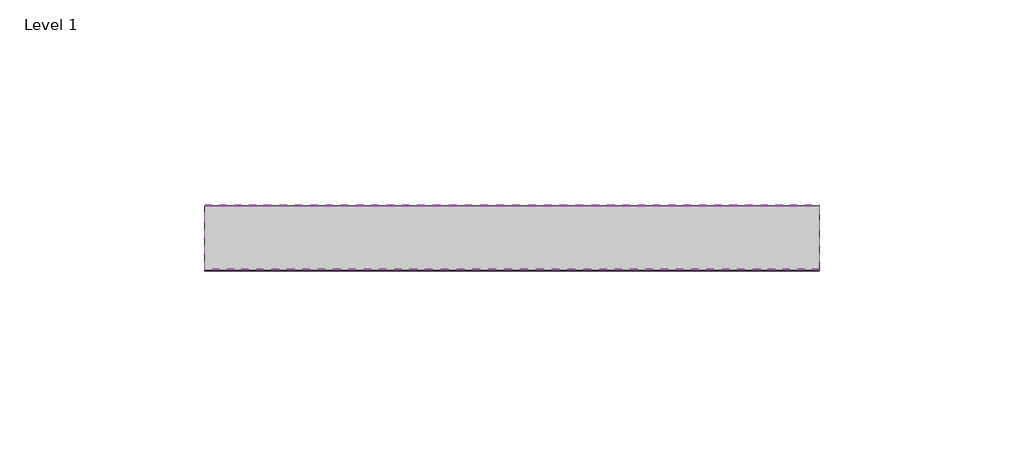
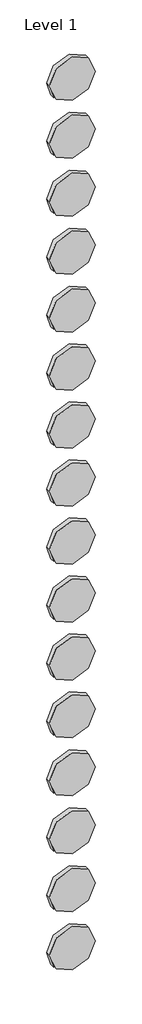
# One storey: 16 proxies.
"""IFC4 building model written with IfcOpenShell, lengths in millimetres."""

from ifc_helpers import new_model, si_unit, origin, place, context, project, spatial, transform, mapped, element, save
from components import materialmodel_materialmodel_7ac49ee1

model = new_model("IFC4")

# Units and contexts
model_context = context("Model", 3, world=origin())
ifc_project = project(units=[si_unit("LENGTHUNIT", "METRE", prefix="MILLI")], contexts=[model_context])

# Site, building, storey
site = spatial("IfcSite", under=ifc_project)
building = spatial("IfcBuilding", under=site)
storey = spatial("IfcBuildingStorey", under=building, Name="Level 1", Elevation=0.0)

# Proxies
placement = place(None, origin())
materialmodel_materialmodel_shape = materialmodel_materialmodel_7ac49ee1(model_context)
element("IfcBuildingElementProxy", 1, Name="MaterialModel : MaterialModel", ObjectType="MaterialModel : MaterialModel", at=placement, inside=storey, context=model_context, shape_type="MappedRepresentation", body=[
    mapped(materialmodel_materialmodel_shape, transform((-14563.2398028, 705.5961609, 2917.2148789), x_axis=(1.0, 0.0, 0.0), y_axis=(0.0, 1.0, 0.0), z_axis=(0.0, 0.0, 1.0))),
])
element("IfcBuildingElementProxy", 2, Name="MaterialModel : MaterialModel", ObjectType="MaterialModel : MaterialModel", at=placement, inside=storey, context=model_context, shape_type="MappedRepresentation", body=[
    mapped(materialmodel_materialmodel_shape, transform((-14563.2398028, 705.5961609, 2716.8990228), x_axis=(1.0, 0.0, 0.0), y_axis=(0.0, 1.0, 0.0), z_axis=(0.0, 0.0, 1.0))),
])
element("IfcBuildingElementProxy", 3, Name="MaterialModel : MaterialModel", ObjectType="MaterialModel : MaterialModel", at=placement, inside=storey, context=model_context, shape_type="MappedRepresentation", body=[
    mapped(materialmodel_materialmodel_shape, transform((-14563.2398028, 705.5961609, 2516.5831667), x_axis=(1.0, 0.0, 0.0), y_axis=(0.0, 1.0, 0.0), z_axis=(0.0, 0.0, 1.0))),
])
element("IfcBuildingElementProxy", 4, Name="MaterialModel : MaterialModel", ObjectType="MaterialModel : MaterialModel", at=placement, inside=storey, context=model_context, shape_type="MappedRepresentation", body=[
    mapped(materialmodel_materialmodel_shape, transform((-14563.2398028, 705.5961609, 2316.2673106), x_axis=(1.0, 0.0, 0.0), y_axis=(0.0, 1.0, 0.0), z_axis=(0.0, 0.0, 1.0))),
])
element("IfcBuildingElementProxy", 5, Name="MaterialModel : MaterialModel", ObjectType="MaterialModel : MaterialModel", at=placement, inside=storey, context=model_context, shape_type="MappedRepresentation", body=[
    mapped(materialmodel_materialmodel_shape, transform((-14563.2398028, 705.5961609, 2115.9514546), x_axis=(1.0, 0.0, 0.0), y_axis=(0.0, 1.0, 0.0), z_axis=(0.0, 0.0, 1.0))),
])
element("IfcBuildingElementProxy", 6, Name="MaterialModel : MaterialModel", ObjectType="MaterialModel : MaterialModel", at=placement, inside=storey, context=model_context, shape_type="MappedRepresentation", body=[
    mapped(materialmodel_materialmodel_shape, transform((-14563.2398028, 705.5961609, 1915.6355985), x_axis=(1.0, 0.0, 0.0), y_axis=(0.0, 1.0, 0.0), z_axis=(0.0, 0.0, 1.0))),
])
element("IfcBuildingElementProxy", 7, Name="MaterialModel : MaterialModel", ObjectType="MaterialModel : MaterialModel", at=placement, inside=storey, context=model_context, shape_type="MappedRepresentation", body=[
    mapped(materialmodel_materialmodel_shape, transform((-14563.2398028, 705.5961609, 1715.3197424), x_axis=(1.0, 0.0, 0.0), y_axis=(0.0, 1.0, 0.0), z_axis=(0.0, 0.0, 1.0))),
])
element("IfcBuildingElementProxy", 8, Name="MaterialModel : MaterialModel", ObjectType="MaterialModel : MaterialModel", at=placement, inside=storey, context=model_context, shape_type="MappedRepresentation", body=[
    mapped(materialmodel_materialmodel_shape, transform((-14563.2398028, 705.5961609, 1515.0038863), x_axis=(1.0, 0.0, 0.0), y_axis=(0.0, 1.0, 0.0), z_axis=(0.0, 0.0, 1.0))),
])
element("IfcBuildingElementProxy", 9, Name="MaterialModel : MaterialModel", ObjectType="MaterialModel : MaterialModel", at=placement, inside=storey, context=model_context, shape_type="MappedRepresentation", body=[
    mapped(materialmodel_materialmodel_shape, transform((-14563.2398028, 705.5961609, 1314.6880302), x_axis=(1.0, 0.0, 0.0), y_axis=(0.0, 1.0, 0.0), z_axis=(0.0, 0.0, 1.0))),
])
element("IfcBuildingElementProxy", 10, Name="MaterialModel : MaterialModel", ObjectType="MaterialModel : MaterialModel", at=placement, inside=storey, context=model_context, shape_type="MappedRepresentation", body=[
    mapped(materialmodel_materialmodel_shape, transform((-14563.2398028, 705.5961609, 1114.3721741), x_axis=(1.0, 0.0, 0.0), y_axis=(0.0, 1.0, 0.0), z_axis=(0.0, 0.0, 1.0))),
])
element("IfcBuildingElementProxy", 11, Name="MaterialModel : MaterialModel", ObjectType="MaterialModel : MaterialModel", at=placement, inside=storey, context=model_context, shape_type="MappedRepresentation", body=[
    mapped(materialmodel_materialmodel_shape, transform((-14563.2398028, 705.5961609, 914.056318), x_axis=(1.0, 0.0, 0.0), y_axis=(0.0, 1.0, 0.0), z_axis=(0.0, 0.0, 1.0))),
])
element("IfcBuildingElementProxy", 12, Name="MaterialModel : MaterialModel", ObjectType="MaterialModel : MaterialModel", at=placement, inside=storey, context=model_context, shape_type="MappedRepresentation", body=[
    mapped(materialmodel_materialmodel_shape, transform((-14563.2398028, 705.5961609, 713.7404619), x_axis=(1.0, 0.0, 0.0), y_axis=(0.0, 1.0, 0.0), z_axis=(0.0, 0.0, 1.0))),
])
element("IfcBuildingElementProxy", 13, Name="MaterialModel : MaterialModel", ObjectType="MaterialModel : MaterialModel", at=placement, inside=storey, context=model_context, shape_type="MappedRepresentation", body=[
    mapped(materialmodel_materialmodel_shape, transform((-14563.2398028, 705.5961609, 513.4246058), x_axis=(1.0, 0.0, 0.0), y_axis=(0.0, 1.0, 0.0), z_axis=(0.0, 0.0, 1.0))),
])
element("IfcBuildingElementProxy", 14, Name="MaterialModel : MaterialModel", ObjectType="MaterialModel : MaterialModel", at=placement, inside=storey, context=model_context, shape_type="MappedRepresentation", body=[
    mapped(materialmodel_materialmodel_shape, transform((-14563.2398028, 705.5961609, 313.1087497), x_axis=(1.0, 0.0, 0.0), y_axis=(0.0, 1.0, 0.0), z_axis=(0.0, 0.0, 1.0))),
])
element("IfcBuildingElementProxy", 15, Name="MaterialModel : MaterialModel", ObjectType="MaterialModel : MaterialModel", at=placement, inside=storey, context=model_context, shape_type="MappedRepresentation", body=[
    mapped(materialmodel_materialmodel_shape, transform((-14563.2398028, 705.5961609, 112.7928936), x_axis=(1.0, 0.0, 0.0), y_axis=(0.0, 1.0, 0.0), z_axis=(0.0, 0.0, 1.0))),
])
element("IfcBuildingElementProxy", 16, Name="MaterialModel : MaterialModel", ObjectType="MaterialModel : MaterialModel", at=placement, inside=storey, context=model_context, shape_type="MappedRepresentation", body=[
    mapped(materialmodel_materialmodel_shape, transform((-14563.2398028, 705.5961609, -87.5229625), x_axis=(1.0, 0.0, 0.0), y_axis=(0.0, 1.0, 0.0), z_axis=(0.0, 0.0, 1.0))),
])

save(model, "model.ifc")
